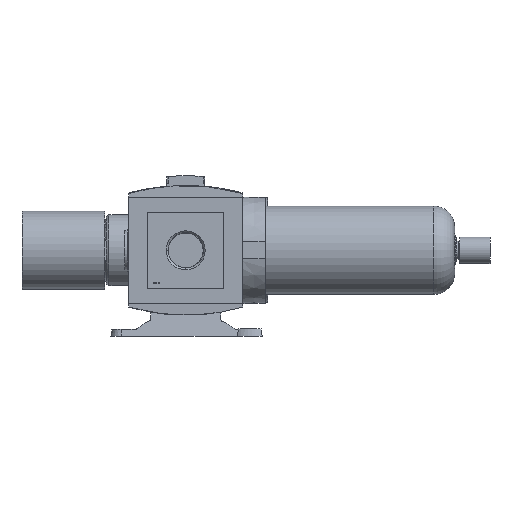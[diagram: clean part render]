
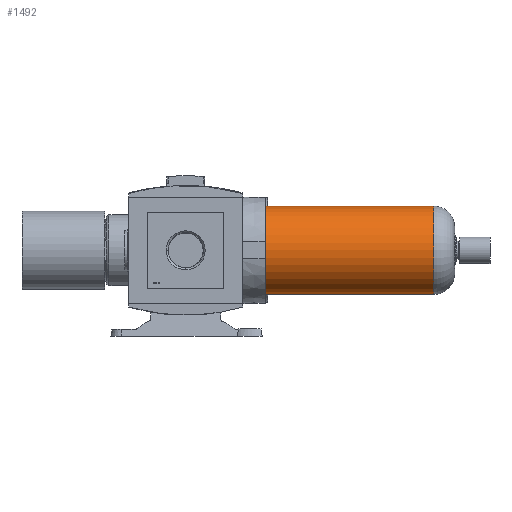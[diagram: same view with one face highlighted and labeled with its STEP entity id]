
A CAD part, left-side view. The second image highlights one B-rep face of the part: STEP entity #1492.
In plain terms, the highlighted cylindrical face has radius 31.75 mm (diameter 63.5 mm), a full revolution.
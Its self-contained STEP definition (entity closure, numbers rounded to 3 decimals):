
#1492 = ADVANCED_FACE( '', ( #3311, #3312 ), #3313, .T. );
#3311 = FACE_OUTER_BOUND( '', #5666, .T. );
#3312 = FACE_OUTER_BOUND( '', #5667, .T. );
#3313 = CYLINDRICAL_SURFACE( '', #5668, 31.75 );
#5666 = EDGE_LOOP( '', ( #9223 ) );
#5667 = EDGE_LOOP( '', ( #9224 ) );
#5668 = AXIS2_PLACEMENT_3D( '', #9225, #9226, #9227 );
#9223 = ORIENTED_EDGE( '', *, *, #13433, .F. );
#9224 = ORIENTED_EDGE( '', *, *, #14414, .T. );
#9225 = CARTESIAN_POINT( '', ( 0., -136.7, 0. ) );
#9226 = DIRECTION( '', ( 0., 1., 0. ) );
#9227 = DIRECTION( '', ( 0., 0., -1. ) );
#13433 = EDGE_CURVE( '', #15804, #15804, #15805, .T. );
#14414 = EDGE_CURVE( '', #17436, #17436, #17437, .T. );
#15804 = VERTEX_POINT( '', #19229 );
#15805 = CIRCLE( '', #19230, 31.75 );
#17436 = VERTEX_POINT( '', #21635 );
#17437 = CIRCLE( '', #21636, 31.75 );
#19229 = CARTESIAN_POINT( '', ( 0., -121.1, -31.75 ) );
#19230 = AXIS2_PLACEMENT_3D( '', #24084, #24085, #24086 );
#21635 = CARTESIAN_POINT( '', ( 0., 0., -31.75 ) );
#21636 = AXIS2_PLACEMENT_3D( '', #25277, #25278, #25279 );
#24084 = CARTESIAN_POINT( '', ( 0., -121.1, 0. ) );
#24085 = DIRECTION( '', ( 0., -1., 0. ) );
#24086 = DIRECTION( '', ( 0., 0., -1. ) );
#25277 = CARTESIAN_POINT( '', ( 0., 0., 0. ) );
#25278 = DIRECTION( '', ( 0., -1., 0. ) );
#25279 = DIRECTION( '', ( 0., 0., -1. ) );
